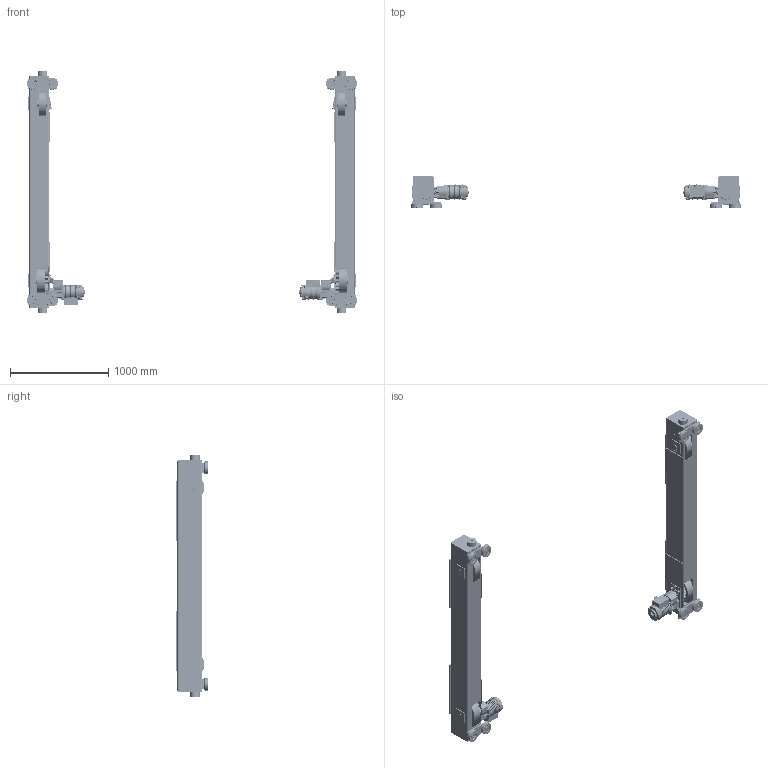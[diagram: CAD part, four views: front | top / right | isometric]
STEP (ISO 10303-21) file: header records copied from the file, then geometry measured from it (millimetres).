
FILE_DESCRIPTION (( 'STEP AP214' ), '1' );
FILE_NAME ('MTMS-3-1035.STEP', '2026-08-14T14:10:44', ( '' ), ( '' ), 'SwSTEP 2.0', 'SolidWorks 2026', '' );
FILE_SCHEMA (( 'AUTOMOTIVE_DESIGN' ));
Length unit declared in the file: inch
Products named in the file (73): 6244513; 6244511; 9798526_9798526; 9093329_9093329; 6244522; G1JE075S9401; 9091295_9091295; 6244512; 9093327_9093327; 6244510; 9047280_9047280; 9000608; 6244515X_6244515SP; 6244516; G1JE075S9301; N6QO5751101; N6WO975E91311; G1JE040S9701; 6244518; G1JE075S9603; 9093350_9093350; N6QO575E91341; 9091272_9091272; N6QO575E9102; G1JE040S9707; T1000-800-004_92.4375; 9012712_9012712; 62516_1035s 2.5 SQUARE BAR; 6244507; N6QO575E91013; G1JE075S9310; MS555010_MS555010; N6QO3751108; 9012707_9012707; 9012709_Rectangular section spring washer BS 4464 - 16 (Type B); G1JM075S_NORMAL; G1JE040S9503; 9012514_9012514; 6244506; 62587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
Assembly tree (284 placements, depth 4):
  MTMS-3-1035
    62516_1035s 2.5 SQUARE BAR
      62514_6251401
        T1000-800-004_92.4375
        6244512
        6244511
        6244511
        6244510
        6244510
        6244510
      6244516  x2
      6244507  x2
      6244515X_6244515SP  x2
        6244514X_6244514D
        6244522
      MS116050
      6244504
      6244505
      6244506
    62517_1035s 2.5 SQUARE BAR
      62515_6251501
        T1000-800-004_92.4375
        6244512
        6244511
        6244511
        6244510
        6244510
        6244510
      6244516  x2
      6244507  x2
      6244515X_6244515SP  x2
        6244514X_6244514D
        6244522
      MS116050
      6244504
      6244505
      6244506
    6244513  x4
    6244518  x4
    9012711_9012711  x28
    9093327_9093327  x24
    N6QO5751101  x2
      N6QO575E91013
      N6QO575E91341
      N6WO975E91311
      9000710
      9091295_9091295
      9012712_9012712
    N6QO5751102  x2
      N6QO575E9102
      9000710
    N6QO3751108  x8
      N6QO375E9108
      9000608
      9047280_9047280
    N6QO375120  x8
    N6QO375207  x4
    9012514_9012514  x4
    9093329_9093329  x4
    G1JM075S_NORMAL
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Bounding box: 3364.67 x 321.57 x 2463.96 mm (x, y, z)
Volume: 67684433.2 mm3; surface area: 14938193.5 mm2
Topology: 308 solids, 372 shells, 17044 faces, 43180 edges, 27540 vertices
Faces by surface type: plane 9128, cylinder 3766, bspline 1658, cone 1310, torus 940, sphere 242
Entity records: 170738 total; most frequent: CARTESIAN_POINT 67691, ORIENTED_EDGE 21258, DIRECTION 20058, EDGE_CURVE 10633, AXIS2_PLACEMENT_3D 7601, VERTEX_POINT 6749, LINE 4856, VECTOR 4856
